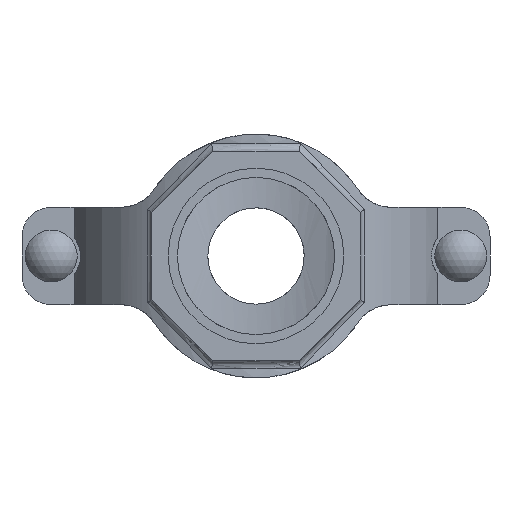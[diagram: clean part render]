
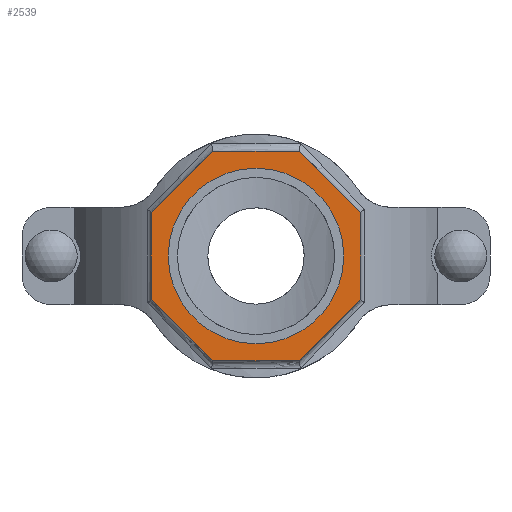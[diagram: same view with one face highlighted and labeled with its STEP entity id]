
A CAD part, front view. The second image highlights one B-rep face of the part: STEP entity #2539.
In plain terms, the highlighted planar face has unit normal (0, -1, 0) as drawn and (0, 1, 0) by its records, which use the part's own axes.
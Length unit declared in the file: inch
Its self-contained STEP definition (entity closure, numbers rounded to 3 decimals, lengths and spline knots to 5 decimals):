
#186=FACE_BOUND('',#459,.T.);
#307=FACE_OUTER_BOUND('',#458,.T.);
#458=EDGE_LOOP('',(#2138,#2139,#2140,#2141,#2142,#2143,#2144,#2145));
#459=EDGE_LOOP('',(#2146));
#594=LINE('',#4648,#780);
#597=LINE('',#4653,#783);
#599=LINE('',#4657,#785);
#601=LINE('',#4661,#787);
#641=LINE('',#5118,#827);
#643=LINE('',#5122,#829);
#645=LINE('',#5126,#831);
#647=LINE('',#5129,#833);
#780=VECTOR('',#3278,0.3937);
#783=VECTOR('',#3283,0.3937);
#785=VECTOR('',#3287,0.3937);
#787=VECTOR('',#3291,0.3937);
#827=VECTOR('',#3427,0.3937);
#829=VECTOR('',#3431,0.3937);
#831=VECTOR('',#3435,0.3937);
#833=VECTOR('',#3439,0.3937);
#919=CIRCLE('',#2802,2.25);
#1097=VERTEX_POINT('',#4645);
#1098=VERTEX_POINT('',#4647);
#1099=VERTEX_POINT('',#4651);
#1100=VERTEX_POINT('',#4655);
#1101=VERTEX_POINT('',#4659);
#1136=VERTEX_POINT('',#4947);
#1160=VERTEX_POINT('',#5117);
#1161=VERTEX_POINT('',#5121);
#1162=VERTEX_POINT('',#5125);
#1408=EDGE_CURVE('',#1098,#1097,#594,.T.);
#1411=EDGE_CURVE('',#1097,#1099,#597,.T.);
#1413=EDGE_CURVE('',#1099,#1100,#599,.T.);
#1415=EDGE_CURVE('',#1100,#1101,#601,.T.);
#1461=EDGE_CURVE('',#1136,#1136,#919,.T.);
#1495=EDGE_CURVE('',#1160,#1098,#641,.T.);
#1497=EDGE_CURVE('',#1161,#1160,#643,.T.);
#1499=EDGE_CURVE('',#1162,#1161,#645,.T.);
#1501=EDGE_CURVE('',#1101,#1162,#647,.T.);
#2138=ORIENTED_EDGE('',*,*,#1501,.T.);
#2139=ORIENTED_EDGE('',*,*,#1499,.T.);
#2140=ORIENTED_EDGE('',*,*,#1497,.T.);
#2141=ORIENTED_EDGE('',*,*,#1495,.T.);
#2142=ORIENTED_EDGE('',*,*,#1408,.T.);
#2143=ORIENTED_EDGE('',*,*,#1411,.T.);
#2144=ORIENTED_EDGE('',*,*,#1413,.T.);
#2145=ORIENTED_EDGE('',*,*,#1415,.T.);
#2146=ORIENTED_EDGE('',*,*,#1461,.T.);
#2280=PLANE('',#2825);
#2539=ADVANCED_FACE('',(#307,#186),#2280,.T.);
#2802=AXIS2_PLACEMENT_3D('',#4948,#3369,#3370);
#2825=AXIS2_PLACEMENT_3D('',#5130,#3440,#3441);
#3278=DIRECTION('',(0.,0.,1.));
#3283=DIRECTION('',(0.707,0.,0.707));
#3287=DIRECTION('',(1.,0.,0.));
#3291=DIRECTION('',(0.707,0.,-0.707));
#3369=DIRECTION('center_axis',(0.,-1.,0.));
#3370=DIRECTION('ref_axis',(-1.,0.,0.));
#3427=DIRECTION('',(-0.707,0.,0.707));
#3431=DIRECTION('',(-1.,0.,0.));
#3435=DIRECTION('',(-0.707,0.,-0.707));
#3439=DIRECTION('',(0.,0.,-1.));
#3440=DIRECTION('center_axis',(0.,1.,0.));
#3441=DIRECTION('ref_axis',(0.,0.,1.));
#4645=CARTESIAN_POINT('',(-2.6875,6.75,1.1132));
#4647=CARTESIAN_POINT('',(-2.6875,6.75,-1.1132));
#4648=CARTESIAN_POINT('',(-2.6875,6.75,1.1132));
#4651=CARTESIAN_POINT('',(-1.1132,6.75,2.6875));
#4653=CARTESIAN_POINT('',(-1.1132,6.75,2.6875));
#4655=CARTESIAN_POINT('',(1.1132,6.75,2.6875));
#4657=CARTESIAN_POINT('',(1.1132,6.75,2.6875));
#4659=CARTESIAN_POINT('',(2.6875,6.75,1.1132));
#4661=CARTESIAN_POINT('',(2.6875,6.75,1.1132));
#4947=CARTESIAN_POINT('',(2.25,6.75,0.));
#4948=CARTESIAN_POINT('Origin',(0.,6.75,0.));
#5117=CARTESIAN_POINT('',(-1.1132,6.75,-2.6875));
#5118=CARTESIAN_POINT('',(-2.6875,6.75,-1.1132));
#5121=CARTESIAN_POINT('',(1.1132,6.75,-2.6875));
#5122=CARTESIAN_POINT('',(-1.1132,6.75,-2.6875));
#5125=CARTESIAN_POINT('',(2.6875,6.75,-1.1132));
#5126=CARTESIAN_POINT('',(1.1132,6.75,-2.6875));
#5129=CARTESIAN_POINT('',(2.6875,6.75,-1.1132));
#5130=CARTESIAN_POINT('Origin',(0.,6.75,0.));
